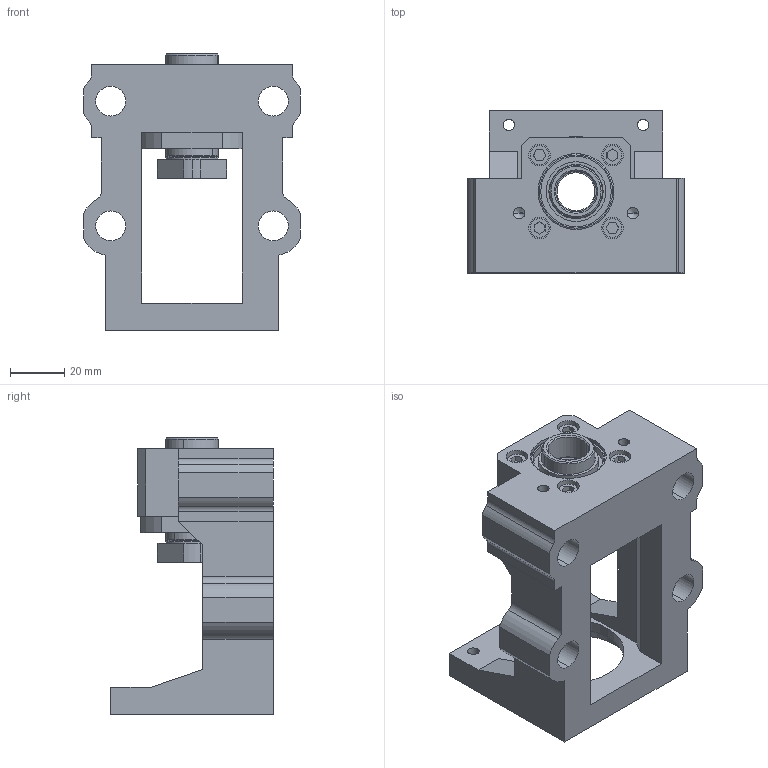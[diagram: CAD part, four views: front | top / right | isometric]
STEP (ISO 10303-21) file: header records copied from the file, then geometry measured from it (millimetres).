
FILE_DESCRIPTION (( 'STEP AP203' ), '1' );
FILE_NAME ('MBCE15-D.STEP', '2023-01-12T02:02:52', ( '' ), ( '' ), 'SwSTEP 2.0', 'SolidWorks 2018', '' );
FILE_SCHEMA (( 'CONFIG_CONTROL_DESIGN' ));
Length unit declared in the file: millimetre
Products named in the file (12): EAFK15; 7002保持器; MBCE15-D; 7002內圈; 7002鋼珠4.7625; 7002; BK系列密封圈_BK15密封圈; M15鎖固螺帽_M15; MBC15; MBCE15-D_網路下載圖; 螺絲_M4L25; 7002外圈
Assembly tree (28 placements, depth 3):
  MBCE15-D
    MBCE15-D_網路下載圖
    7002  x2
      7002外圈
      7002保持器
      7002內圈
      7002鋼珠4.7625
    BK系列密封圈_BK15密封圈  x2
    M15鎖固螺帽_M15
    MBC15
    螺絲_M4L25  x4
    EAFK15  x2
Bounding box: 80 x 60 x 102 mm (x, y, z)
Volume: 136551.8 mm3; surface area: 63826 mm2
Topology: 41 solids, 42 shells, 554 faces, 1370 edges, 862 vertices
Faces by surface type: cylinder 234, plane 136, torus 96, sphere 48, cone 40
Entity records: 13788 total; most frequent: CARTESIAN_POINT 3525, DIRECTION 1922, ORIENTED_EDGE 1672, EDGE_CURVE 836, AXIS2_PLACEMENT_3D 773, VERTEX_POINT 526, EDGE_LOOP 440, CIRCLE 396
